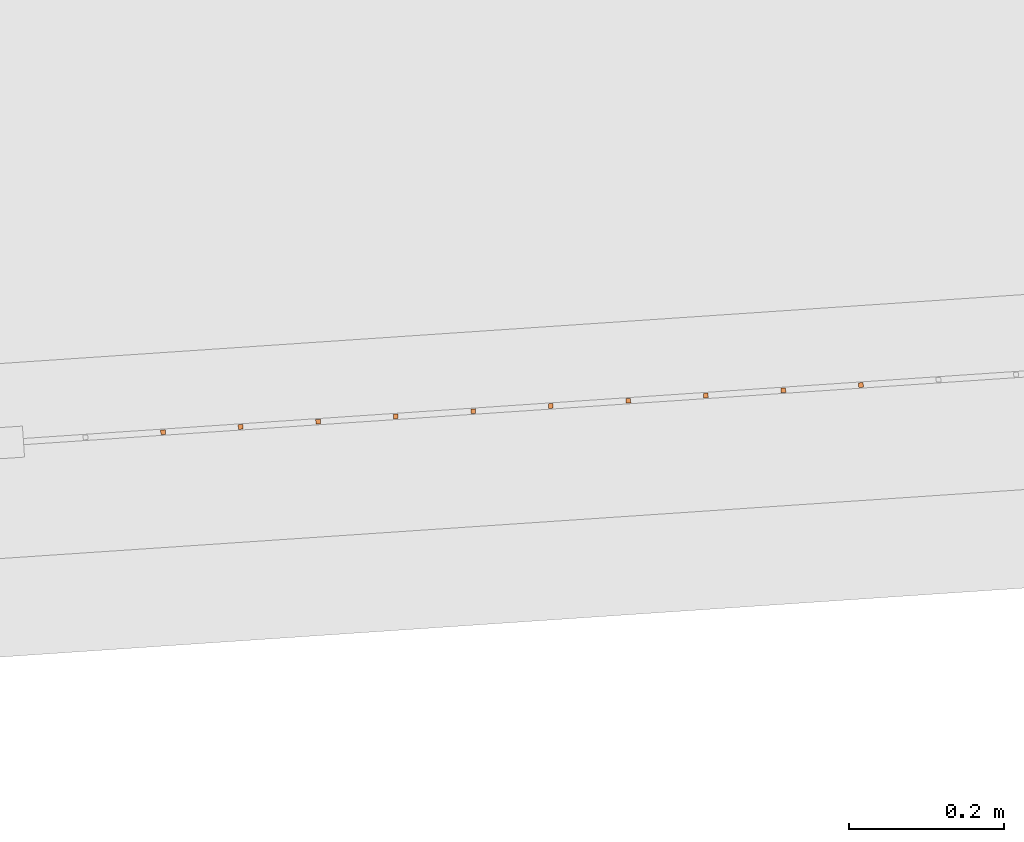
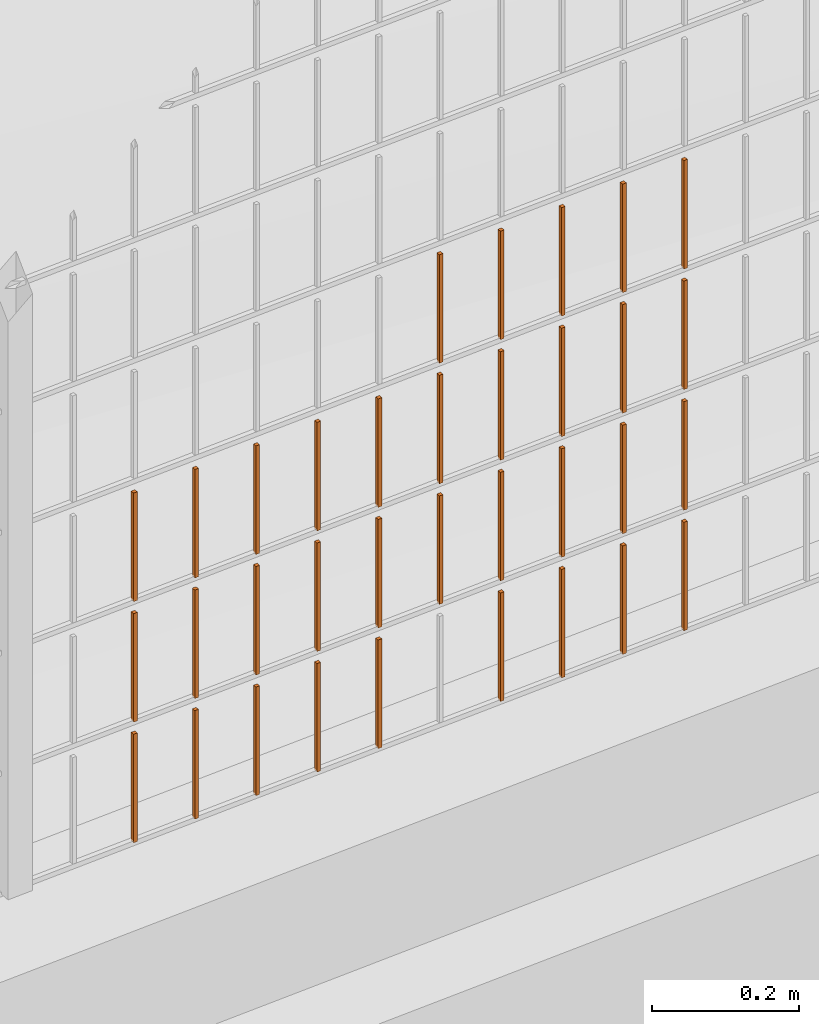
# One storey, part 395 of 1809: 34 proxies, 1 element without a shape of its own.
"""IFC2X3 building model written with IfcOpenShell, lengths in millimetres."""

from ifc_helpers import new_model, entity, si_unit, converted_unit, derived_unit, money_unit, direction, frame, origin_with_axes, place, context, subcontext, project, spatial, faceted_brep, source, transform, mapped, material, type_object, element, aggregate, save


model = new_model("IFC2X3")

# Units and contexts
model_context = context("Model", 3, precision=0.01, world=origin_with_axes(), true_north=direction((0.0, 1.0)))
body_context = subcontext(model_context, "Body", "Model", "MODEL_VIEW")
ifc_project = project(units=[si_unit("LENGTHUNIT", "METRE", prefix="MILLI"), si_unit("AREAUNIT", "SQUARE_METRE"), si_unit("VOLUMEUNIT", "CUBIC_METRE"), converted_unit("PLANEANGLEUNIT", "DEGREE", entity("IfcPlaneAngleMeasure", 0.0174532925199), si_unit("PLANEANGLEUNIT", "RADIAN"), dimensions=[0, 0, 0, 0, 0, 0, 0]), si_unit("SOLIDANGLEUNIT", "STERADIAN"), money_unit("EUR"), converted_unit("TIMEUNIT", "Year", entity("IfcTimeMeasure", 31556926.0), si_unit("TIMEUNIT", "SECOND"), dimensions=[0, 0, 1, 0, 0, 0, 0]), si_unit("MASSUNIT", "GRAM", prefix="KILO"), si_unit("THERMODYNAMICTEMPERATUREUNIT", "DEGREE_CELSIUS"), si_unit("LUMINOUSINTENSITYUNIT", "LUMEN"), si_unit("ENERGYUNIT", "JOULE", prefix="MEGA"), derived_unit("THERMALCONDUCTANCEUNIT", [(si_unit("POWERUNIT", "WATT"), 1), (si_unit("LENGTHUNIT", "METRE"), -1), (si_unit("THERMODYNAMICTEMPERATUREUNIT", "KELVIN"), -1)]), derived_unit("SPECIFICHEATCAPACITYUNIT", [(si_unit("ENERGYUNIT", "JOULE"), 1), (si_unit("MASSUNIT", "GRAM", prefix="KILO"), -1), (si_unit("THERMODYNAMICTEMPERATUREUNIT", "KELVIN"), -1)]), derived_unit("MASSDENSITYUNIT", [(si_unit("MASSUNIT", "GRAM", prefix="KILO"), 1), (si_unit("VOLUMEUNIT", "CUBIC_METRE"), -1)])], contexts=[model_context])

# Site, building, storey
site_placement = place(None, origin_with_axes())
site = spatial("IfcSite", under=ifc_project, at=site_placement, Name="Politse- ja Piirivalveameti ning Päästeameti ühishoone", CompositionType="ELEMENT")
building_placement = place(site_placement, origin_with_axes())
building = spatial("IfcBuilding", under=site, at=building_placement, Name="Politse- ja Piirivalveameti ning Päästeameti ühishoone", CompositionType="ELEMENT")
storey_placement = place(building_placement, origin_with_axes())
storey = spatial("IfcBuildingStorey", under=building, at=storey_placement, Name="Esimene korrus", CompositionType="ELEMENT", Elevation=0.0)

# Proxies
building_element_proxy_type_1 = type_object("IfcBuildingElementProxyType", Name="Railing Type", PredefinedType="NOTDEFINED")
proxy_1_placement = place(storey_placement, frame((89252.001212, -29183.4766571, 203.661247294), z_axis=(0.0, 0.0, 1.0), x_axis=(1.0, 0.0, 0.0)))
proxy_1 = element("IfcBuildingElementProxy", 1, at=proxy_1_placement, inside=storey, type_object=building_element_proxy_type_1, Name="PIIRDEAED")
ifc_material = material(Name="ET-03_Raud")
building_element_proxy_type_2 = type_object("IfcBuildingElementProxyType", Name="IfcBuildingElementProxy", PredefinedType="NOTDEFINED")
shared_shape_1 = source(origin_with_axes(), body_context, "Body", "Brep", [
    faceted_brep([(3.0, 3.0, -0.000752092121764), (-3.0, 3.0, -0.000752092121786), (-3.0, 3.0, 179.99926046), (3.0, 3.0, 179.99926046), (3.0, -3.0, 0.000752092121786), (-3.0, -3.0, 0.000752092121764), (-3.0, -3.0, 180.000764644), (3.0, -3.0, 180.000764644)], [[[0, 1, 2, 3]], [[0, 4, 5, 1]], [[1, 5, 6, 2]], [[3, 2, 6, 7]], [[4, 0, 3, 7]], [[5, 4, 7, 6]]]),
])
proxy_2_placement = place(proxy_1_placement, frame((-11400.7097398, -18067.8496798, 24.3697448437), z_axis=(0.0, 0.0, 1.0), x_axis=(1.0, 0.0, 0.0)))
proxy_2 = element("IfcBuildingElementProxy", 2, at=proxy_2_placement, type_object=building_element_proxy_type_2, material=ifc_material, Name="BALUSTER - 001", context=body_context, shape_type="MappedRepresentation", body=[
    mapped(shared_shape_1, transform((0.0, 0.0, 0.0), x_axis=(-0.0673926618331, 0.997726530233, 0.0), y_axis=(-0.997726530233, -0.0673926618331, 0.0), z_axis=(0.0, 0.0, 1.0))),
])
shared_shape_2 = source(origin_with_axes(), body_context, "Body", "Brep", [
    faceted_brep([(3.0, 3.0, -0.000752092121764), (-3.0, 3.0, -0.000752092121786), (-3.0, 3.0, 179.99926046), (3.0, 3.0, 179.99926046), (3.0, -3.0, 0.000752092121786), (-3.0, -3.0, 0.000752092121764), (-3.0, -3.0, 180.000764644), (3.0, -3.0, 180.000764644)], [[[0, 1, 2, 3]], [[0, 4, 5, 1]], [[1, 5, 6, 2]], [[3, 2, 6, 7]], [[4, 0, 3, 7]], [[5, 4, 7, 6]]]),
])
proxy_3_placement = place(proxy_1_placement, frame((-11300.9370868, -18061.1104136, 24.3948145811), z_axis=(0.0, 0.0, 1.0), x_axis=(1.0, 0.0, 0.0)))
proxy_3 = element("IfcBuildingElementProxy", 3, at=proxy_3_placement, type_object=building_element_proxy_type_2, material=ifc_material, Name="BALUSTER - 001", context=body_context, shape_type="MappedRepresentation", body=[
    mapped(shared_shape_2, transform((0.0, 0.0, 0.0), x_axis=(-0.0673926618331, 0.997726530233, 0.0), y_axis=(-0.997726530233, -0.0673926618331, 0.0), z_axis=(0.0, 0.0, 1.0))),
])
shared_shape_3 = source(origin_with_axes(), body_context, "Body", "Brep", [
    faceted_brep([(3.0, 3.0, -0.000752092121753), (-3.0, 3.0, -0.000752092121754), (-3.0, 3.0, 179.99926046), (3.0, 3.0, 179.99926046), (3.0, -3.0, 0.000752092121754), (-3.0, -3.0, 0.000752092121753), (-3.0, -3.0, 180.000764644), (3.0, -3.0, 180.000764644)], [[[0, 1, 2, 3]], [[0, 4, 5, 1]], [[1, 5, 6, 2]], [[3, 2, 6, 7]], [[4, 0, 3, 7]], [[5, 4, 7, 6]]]),
])
proxy_4_placement = place(proxy_1_placement, frame((-11500.4823929, -18074.588946, 224.344675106), z_axis=(0.0, 0.0, 1.0), x_axis=(1.0, 0.0, 0.0)))
proxy_4 = element("IfcBuildingElementProxy", 4, at=proxy_4_placement, type_object=building_element_proxy_type_2, material=ifc_material, Name="BALUSTER - 001", context=body_context, shape_type="MappedRepresentation", body=[
    mapped(shared_shape_3, transform((0.0, 0.0, 0.0), x_axis=(-0.0673926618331, 0.997726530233, 0.0), y_axis=(-0.997726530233, -0.0673926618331, 0.0), z_axis=(0.0, 0.0, 1.0))),
])
proxy_5_placement = place(proxy_1_placement, frame((-11500.4823929, -18074.588946, 424.344675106), z_axis=(0.0, 0.0, 1.0), x_axis=(1.0, 0.0, 0.0)))
proxy_5 = element("IfcBuildingElementProxy", 5, at=proxy_5_placement, type_object=building_element_proxy_type_2, material=ifc_material, Name="BALUSTER - 001", context=body_context, shape_type="MappedRepresentation", body=[
    mapped(shared_shape_3, transform((0.0, 0.0, 0.0), x_axis=(-0.0673926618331, 0.997726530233, 0.0), y_axis=(-0.997726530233, -0.0673926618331, 0.0), z_axis=(0.0, 0.0, 1.0))),
])
shared_shape_4 = source(origin_with_axes(), body_context, "Body", "Brep", [
    faceted_brep([(3.0, 3.0, -0.000752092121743), (-3.0, 3.0, -0.000752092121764), (-3.0, 3.0, 179.99926046), (3.0, 3.0, 179.99926046), (3.0, -3.0, 0.000752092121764), (-3.0, -3.0, 0.000752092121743), (-3.0, -3.0, 180.000764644), (3.0, -3.0, 180.000764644)], [[[0, 1, 2, 3]], [[0, 4, 5, 1]], [[1, 5, 6, 2]], [[3, 2, 6, 7]], [[4, 0, 3, 7]], [[5, 4, 7, 6]]]),
])
proxy_6_placement = place(proxy_1_placement, frame((-11799.8003519, -18094.8067445, 224.269465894), z_axis=(0.0, 0.0, 1.0), x_axis=(1.0, 0.0, 0.0)))
proxy_6 = element("IfcBuildingElementProxy", 6, at=proxy_6_placement, type_object=building_element_proxy_type_2, material=ifc_material, Name="BALUSTER - 001", context=body_context, shape_type="MappedRepresentation", body=[
    mapped(shared_shape_4, transform((0.0, 0.0, 0.0), x_axis=(-0.0673926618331, 0.997726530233, 0.0), y_axis=(-0.997726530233, -0.0673926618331, 0.0), z_axis=(0.0, 0.0, 1.0))),
])
shared_shape_5 = source(origin_with_axes(), body_context, "Body", "Brep", [
    faceted_brep([(3.0, 3.0, -0.000752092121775), (-3.0, 3.0, -0.000752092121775), (-3.0, 3.0, 179.99926046), (3.0, 3.0, 179.99926046), (3.0, -3.0, 0.000752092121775), (-3.0, -3.0, 0.000752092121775), (-3.0, -3.0, 180.000764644), (3.0, -3.0, 180.000764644)], [[[0, 1, 2, 3]], [[0, 4, 5, 1]], [[1, 5, 6, 2]], [[3, 2, 6, 7]], [[4, 0, 3, 7]], [[5, 4, 7, 6]]]),
])
proxy_7_placement = place(proxy_1_placement, frame((-11700.0276989, -18088.0674784, 224.294535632), z_axis=(0.0, 0.0, 1.0), x_axis=(1.0, 0.0, 0.0)))
proxy_7 = element("IfcBuildingElementProxy", 7, at=proxy_7_placement, type_object=building_element_proxy_type_2, material=ifc_material, Name="BALUSTER - 001", context=body_context, shape_type="MappedRepresentation", body=[
    mapped(shared_shape_5, transform((0.0, 0.0, 0.0), x_axis=(-0.0673926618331, 0.997726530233, 0.0), y_axis=(-0.997726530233, -0.0673926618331, 0.0), z_axis=(0.0, 0.0, 1.0))),
])
proxy_8_placement = place(proxy_1_placement, frame((-11700.0276989, -18088.0674784, 424.294535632), z_axis=(0.0, 0.0, 1.0), x_axis=(1.0, 0.0, 0.0)))
proxy_8 = element("IfcBuildingElementProxy", 8, at=proxy_8_placement, type_object=building_element_proxy_type_2, material=ifc_material, Name="BALUSTER - 001", context=body_context, shape_type="MappedRepresentation", body=[
    mapped(shared_shape_5, transform((0.0, 0.0, 0.0), x_axis=(-0.0673926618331, 0.997726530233, 0.0), y_axis=(-0.997726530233, -0.0673926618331, 0.0), z_axis=(0.0, 0.0, 1.0))),
])
shared_shape_6 = source(origin_with_axes(), body_context, "Body", "Brep", [
    faceted_brep([(3.0, 3.0, -0.000752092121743), (-3.0, 3.0, -0.000752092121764), (-3.0, 3.0, 179.99926046), (3.0, 3.0, 179.99926046), (3.0, -3.0, 0.000752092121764), (-3.0, -3.0, 0.000752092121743), (-3.0, -3.0, 180.000764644), (3.0, -3.0, 180.000764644)], [[[0, 1, 2, 3]], [[0, 4, 5, 1]], [[1, 5, 6, 2]], [[3, 2, 6, 7]], [[4, 0, 3, 7]], [[5, 4, 7, 6]]]),
])
proxy_9_placement = place(proxy_1_placement, frame((-11799.8003519, -18094.8067445, 424.269465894), z_axis=(0.0, 0.0, 1.0), x_axis=(1.0, 0.0, 0.0)))
proxy_9 = element("IfcBuildingElementProxy", 9, at=proxy_9_placement, type_object=building_element_proxy_type_2, material=ifc_material, Name="BALUSTER - 001", context=body_context, shape_type="MappedRepresentation", body=[
    mapped(shared_shape_6, transform((0.0, 0.0, 0.0), x_axis=(-0.0673926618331, 0.997726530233, 0.0), y_axis=(-0.997726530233, -0.0673926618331, 0.0), z_axis=(0.0, 0.0, 1.0))),
])
shared_shape_7 = source(origin_with_axes(), body_context, "Body", "Brep", [
    faceted_brep([(3.0, 3.0, -0.000752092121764), (-3.0, 3.0, -0.000752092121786), (-3.0, 3.0, 179.99926046), (3.0, 3.0, 179.99926046), (3.0, -3.0, 0.000752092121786), (-3.0, -3.0, 0.000752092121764), (-3.0, -3.0, 180.000764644), (3.0, -3.0, 180.000764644)], [[[0, 1, 2, 3]], [[0, 4, 5, 1]], [[1, 5, 6, 2]], [[3, 2, 6, 7]], [[4, 0, 3, 7]], [[5, 4, 7, 6]]]),
])
proxy_10_placement = place(proxy_1_placement, frame((-11400.7097398, -18067.8496798, 224.369744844), z_axis=(0.0, 0.0, 1.0), x_axis=(1.0, 0.0, 0.0)))
proxy_10 = element("IfcBuildingElementProxy", 10, at=proxy_10_placement, type_object=building_element_proxy_type_2, material=ifc_material, Name="BALUSTER - 001", context=body_context, shape_type="MappedRepresentation", body=[
    mapped(shared_shape_7, transform((0.0, 0.0, 0.0), x_axis=(-0.0673926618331, 0.997726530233, 0.0), y_axis=(-0.997726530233, -0.0673926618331, 0.0), z_axis=(0.0, 0.0, 1.0))),
])
shared_shape_8 = source(origin_with_axes(), body_context, "Body", "Brep", [
    faceted_brep([(3.0, 3.0, -0.000752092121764), (-3.0, 3.0, -0.000752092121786), (-3.0, 3.0, 179.99926046), (3.0, 3.0, 179.99926046), (3.0, -3.0, 0.000752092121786), (-3.0, -3.0, 0.000752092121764), (-3.0, -3.0, 180.000764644), (3.0, -3.0, 180.000764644)], [[[0, 1, 2, 3]], [[0, 4, 5, 1]], [[1, 5, 6, 2]], [[3, 2, 6, 7]], [[4, 0, 3, 7]], [[5, 4, 7, 6]]]),
])
proxy_11_placement = place(proxy_1_placement, frame((-11300.9370868, -18061.1104136, 424.394814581), z_axis=(0.0, 0.0, 1.0), x_axis=(1.0, 0.0, 0.0)))
proxy_11 = element("IfcBuildingElementProxy", 11, at=proxy_11_placement, type_object=building_element_proxy_type_2, material=ifc_material, Name="BALUSTER - 001", context=body_context, shape_type="MappedRepresentation", body=[
    mapped(shared_shape_8, transform((0.0, 0.0, 0.0), x_axis=(-0.0673926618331, 0.997726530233, 0.0), y_axis=(-0.997726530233, -0.0673926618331, 0.0), z_axis=(0.0, 0.0, 1.0))),
])
proxy_12_placement = place(proxy_1_placement, frame((-11400.7097398, -18067.8496798, 424.369744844), z_axis=(0.0, 0.0, 1.0), x_axis=(1.0, 0.0, 0.0)))
proxy_12 = element("IfcBuildingElementProxy", 12, at=proxy_12_placement, type_object=building_element_proxy_type_2, material=ifc_material, Name="BALUSTER - 001", context=body_context, shape_type="MappedRepresentation", body=[
    mapped(shared_shape_8, transform((0.0, 0.0, 0.0), x_axis=(-0.0673926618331, 0.997726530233, 0.0), y_axis=(-0.997726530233, -0.0673926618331, 0.0), z_axis=(0.0, 0.0, 1.0))),
])
proxy_13_placement = place(proxy_1_placement, frame((-11999.345658, -18108.2852769, 424.219326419), z_axis=(0.0, 0.0, 1.0), x_axis=(1.0, 0.0, 0.0)))
proxy_13 = element("IfcBuildingElementProxy", 13, at=proxy_13_placement, type_object=building_element_proxy_type_2, material=ifc_material, Name="BALUSTER - 001", context=body_context, shape_type="MappedRepresentation", body=[
    mapped(shared_shape_8, transform((0.0, 0.0, 0.0), x_axis=(-0.0673926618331, 0.997726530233, 0.0), y_axis=(-0.997726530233, -0.0673926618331, 0.0), z_axis=(0.0, 0.0, 1.0))),
])
shared_shape_9 = source(origin_with_axes(), body_context, "Body", "Brep", [
    faceted_brep([(3.0, 3.0, -0.000752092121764), (-3.0, 3.0, -0.000752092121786), (-3.0, 3.0, 179.99926046), (3.0, 3.0, 179.99926046), (3.0, -3.0, 0.000752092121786), (-3.0, -3.0, 0.000752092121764), (-3.0, -3.0, 180.000764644), (3.0, -3.0, 180.000764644)], [[[0, 1, 2, 3]], [[0, 4, 5, 1]], [[1, 5, 6, 2]], [[3, 2, 6, 7]], [[4, 0, 3, 7]], [[5, 4, 7, 6]]]),
])
proxy_14_placement = place(proxy_1_placement, frame((-11201.1644338, -18054.3711474, 424.419884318), z_axis=(0.0, 0.0, 1.0), x_axis=(1.0, 0.0, 0.0)))
proxy_14 = element("IfcBuildingElementProxy", 14, at=proxy_14_placement, type_object=building_element_proxy_type_2, material=ifc_material, Name="BALUSTER - 001", context=body_context, shape_type="MappedRepresentation", body=[
    mapped(shared_shape_9, transform((0.0, 0.0, 0.0), x_axis=(-0.0673926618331, 0.997726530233, 0.0), y_axis=(-0.997726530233, -0.0673926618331, 0.0), z_axis=(0.0, 0.0, 1.0))),
])
shared_shape_10 = source(origin_with_axes(), body_context, "Body", "Brep", [
    faceted_brep([(3.0, 3.0, -0.000752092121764), (-3.0, 3.0, -0.000752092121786), (-3.0, 3.0, 179.99926046), (3.0, 3.0, 179.99926046), (3.0, -3.0, 0.000752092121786), (-3.0, -3.0, 0.000752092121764), (-3.0, -3.0, 180.000764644), (3.0, -3.0, 180.000764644)], [[[0, 1, 2, 3]], [[0, 4, 5, 1]], [[1, 5, 6, 2]], [[3, 2, 6, 7]], [[4, 0, 3, 7]], [[5, 4, 7, 6]]]),
])
proxy_15_placement = place(proxy_1_placement, frame((-11300.9370868, -18061.1104136, 624.394814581), z_axis=(0.0, 0.0, 1.0), x_axis=(1.0, 0.0, 0.0)))
proxy_15 = element("IfcBuildingElementProxy", 15, at=proxy_15_placement, type_object=building_element_proxy_type_2, material=ifc_material, Name="BALUSTER - 001", context=body_context, shape_type="MappedRepresentation", body=[
    mapped(shared_shape_10, transform((0.0, 0.0, 0.0), x_axis=(-0.0673926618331, 0.997726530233, 0.0), y_axis=(-0.997726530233, -0.0673926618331, 0.0), z_axis=(0.0, 0.0, 1.0))),
])
shared_shape_11 = source(origin_with_axes(), body_context, "Body", "Brep", [
    faceted_brep([(3.0, 3.0, -0.000752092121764), (-3.0, 3.0, -0.000752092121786), (-3.0, 3.0, 179.99926046), (3.0, 3.0, 179.99926046), (3.0, -3.0, 0.000752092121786), (-3.0, -3.0, 0.000752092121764), (-3.0, -3.0, 180.000764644), (3.0, -3.0, 180.000764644)], [[[0, 1, 2, 3]], [[0, 4, 5, 1]], [[1, 5, 6, 2]], [[3, 2, 6, 7]], [[4, 0, 3, 7]], [[5, 4, 7, 6]]]),
])
proxy_16_placement = place(proxy_1_placement, frame((-11201.1644338, -18054.3711474, 624.419884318), z_axis=(0.0, 0.0, 1.0), x_axis=(1.0, 0.0, 0.0)))
proxy_16 = element("IfcBuildingElementProxy", 16, at=proxy_16_placement, type_object=building_element_proxy_type_2, material=ifc_material, Name="BALUSTER - 001", context=body_context, shape_type="MappedRepresentation", body=[
    mapped(shared_shape_11, transform((0.0, 0.0, 0.0), x_axis=(-0.0673926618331, 0.997726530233, 0.0), y_axis=(-0.997726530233, -0.0673926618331, 0.0), z_axis=(0.0, 0.0, 1.0))),
])
shared_shape_12 = source(origin_with_axes(), body_context, "Body", "Brep", [
    faceted_brep([(3.0, 3.0, -0.000752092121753), (-3.0, 3.0, -0.000752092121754), (-3.0, 3.0, 179.99926046), (3.0, 3.0, 179.99926046), (3.0, -3.0, 0.000752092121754), (-3.0, -3.0, 0.000752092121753), (-3.0, -3.0, 180.000764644), (3.0, -3.0, 180.000764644)], [[[0, 1, 2, 3]], [[0, 4, 5, 1]], [[1, 5, 6, 2]], [[3, 2, 6, 7]], [[4, 0, 3, 7]], [[5, 4, 7, 6]]]),
])
proxy_17_placement = place(proxy_1_placement, frame((-11500.4823929, -18074.588946, 624.344675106), z_axis=(0.0, 0.0, 1.0), x_axis=(1.0, 0.0, 0.0)))
proxy_17 = element("IfcBuildingElementProxy", 17, at=proxy_17_placement, type_object=building_element_proxy_type_2, material=ifc_material, Name="BALUSTER - 001", context=body_context, shape_type="MappedRepresentation", body=[
    mapped(shared_shape_12, transform((0.0, 0.0, 0.0), x_axis=(-0.0673926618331, 0.997726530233, 0.0), y_axis=(-0.997726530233, -0.0673926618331, 0.0), z_axis=(0.0, 0.0, 1.0))),
])
shared_shape_13 = source(origin_with_axes(), body_context, "Body", "Brep", [
    faceted_brep([(3.0, 3.0, -0.000752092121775), (-3.0, 3.0, -0.000752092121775), (-3.0, 3.0, 179.99926046), (3.0, 3.0, 179.99926046), (3.0, -3.0, 0.000752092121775), (-3.0, -3.0, 0.000752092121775), (-3.0, -3.0, 180.000764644), (3.0, -3.0, 180.000764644)], [[[0, 1, 2, 3]], [[0, 4, 5, 1]], [[1, 5, 6, 2]], [[3, 2, 6, 7]], [[4, 0, 3, 7]], [[5, 4, 7, 6]]]),
])
proxy_18_placement = place(proxy_1_placement, frame((-11700.0276989, -18088.0674784, 24.2945356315), z_axis=(0.0, 0.0, 1.0), x_axis=(1.0, 0.0, 0.0)))
proxy_18 = element("IfcBuildingElementProxy", 18, at=proxy_18_placement, type_object=building_element_proxy_type_2, material=ifc_material, Name="BALUSTER - 001", context=body_context, shape_type="MappedRepresentation", body=[
    mapped(shared_shape_13, transform((0.0, 0.0, 0.0), x_axis=(-0.0673926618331, 0.997726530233, 0.0), y_axis=(-0.997726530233, -0.0673926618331, 0.0), z_axis=(0.0, 0.0, 1.0))),
])
shared_shape_14 = source(origin_with_axes(), body_context, "Body", "Brep", [
    faceted_brep([(3.0, 3.0, -0.000752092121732), (-3.0, 3.0, -0.000752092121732), (-3.0, 3.0, 179.99926046), (3.0, 3.0, 179.99926046), (3.0, -3.0, 0.000752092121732), (-3.0, -3.0, 0.000752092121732), (-3.0, -3.0, 180.000764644), (3.0, -3.0, 180.000764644)], [[[0, 1, 2, 3]], [[0, 4, 5, 1]], [[1, 5, 6, 2]], [[3, 2, 6, 7]], [[4, 0, 3, 7]], [[5, 4, 7, 6]]]),
])
proxy_19_placement = place(proxy_1_placement, frame((-11600.2550459, -18081.3282122, 224.319605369), z_axis=(0.0, 0.0, 1.0), x_axis=(1.0, 0.0, 0.0)))
proxy_19 = element("IfcBuildingElementProxy", 19, at=proxy_19_placement, type_object=building_element_proxy_type_2, material=ifc_material, Name="BALUSTER - 001", context=body_context, shape_type="MappedRepresentation", body=[
    mapped(shared_shape_14, transform((0.0, 0.0, 0.0), x_axis=(-0.0673926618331, 0.997726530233, 0.0), y_axis=(-0.997726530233, -0.0673926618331, 0.0), z_axis=(0.0, 0.0, 1.0))),
])
proxy_20_placement = place(proxy_1_placement, frame((-11600.2550459, -18081.3282122, 624.319605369), z_axis=(0.0, 0.0, 1.0), x_axis=(1.0, 0.0, 0.0)))
proxy_20 = element("IfcBuildingElementProxy", 20, at=proxy_20_placement, type_object=building_element_proxy_type_2, material=ifc_material, Name="BALUSTER - 001", context=body_context, shape_type="MappedRepresentation", body=[
    mapped(shared_shape_14, transform((0.0, 0.0, 0.0), x_axis=(-0.0673926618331, 0.997726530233, 0.0), y_axis=(-0.997726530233, -0.0673926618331, 0.0), z_axis=(0.0, 0.0, 1.0))),
])
shared_shape_15 = source(origin_with_axes(), body_context, "Body", "Brep", [
    faceted_brep([(3.0, 3.0, -0.000752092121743), (-3.0, 3.0, -0.000752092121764), (-3.0, 3.0, 179.99926046), (3.0, 3.0, 179.99926046), (3.0, -3.0, 0.000752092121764), (-3.0, -3.0, 0.000752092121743), (-3.0, -3.0, 180.000764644), (3.0, -3.0, 180.000764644)], [[[0, 1, 2, 3]], [[0, 4, 5, 1]], [[1, 5, 6, 2]], [[3, 2, 6, 7]], [[4, 0, 3, 7]], [[5, 4, 7, 6]]]),
])
proxy_21_placement = place(proxy_1_placement, frame((-11899.573005, -18101.5460107, 424.244396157), z_axis=(0.0, 0.0, 1.0), x_axis=(1.0, 0.0, 0.0)))
proxy_21 = element("IfcBuildingElementProxy", 21, at=proxy_21_placement, type_object=building_element_proxy_type_2, material=ifc_material, Name="BALUSTER - 001", context=body_context, shape_type="MappedRepresentation", body=[
    mapped(shared_shape_15, transform((0.0, 0.0, 0.0), x_axis=(-0.0673926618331, 0.997726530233, 0.0), y_axis=(-0.997726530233, -0.0673926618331, 0.0), z_axis=(0.0, 0.0, 1.0))),
])
shared_shape_16 = source(origin_with_axes(), body_context, "Body", "Brep", [
    faceted_brep([(3.0, 3.0, -0.000752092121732), (-3.0, 3.0, -0.000752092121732), (-3.0, 3.0, 179.99926046), (3.0, 3.0, 179.99926046), (3.0, -3.0, 0.000752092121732), (-3.0, -3.0, 0.000752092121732), (-3.0, -3.0, 180.000764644), (3.0, -3.0, 180.000764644)], [[[0, 1, 2, 3]], [[0, 4, 5, 1]], [[1, 5, 6, 2]], [[3, 2, 6, 7]], [[4, 0, 3, 7]], [[5, 4, 7, 6]]]),
])
proxy_22_placement = place(proxy_1_placement, frame((-11600.2550459, -18081.3282122, 424.319605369), z_axis=(0.0, 0.0, 1.0), x_axis=(1.0, 0.0, 0.0)))
proxy_22 = element("IfcBuildingElementProxy", 22, at=proxy_22_placement, type_object=building_element_proxy_type_2, material=ifc_material, Name="BALUSTER - 001", context=body_context, shape_type="MappedRepresentation", body=[
    mapped(shared_shape_16, transform((0.0, 0.0, 0.0), x_axis=(-0.0673926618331, 0.997726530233, 0.0), y_axis=(-0.997726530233, -0.0673926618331, 0.0), z_axis=(0.0, 0.0, 1.0))),
])
shared_shape_17 = source(origin_with_axes(), body_context, "Body", "Brep", [
    faceted_brep([(3.0, 3.0, -0.000752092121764), (-3.0, 3.0, -0.000752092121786), (-3.0, 3.0, 179.99926046), (3.0, 3.0, 179.99926046), (3.0, -3.0, 0.000752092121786), (-3.0, -3.0, 0.000752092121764), (-3.0, -3.0, 180.000764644), (3.0, -3.0, 180.000764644)], [[[0, 1, 2, 3]], [[0, 4, 5, 1]], [[1, 5, 6, 2]], [[3, 2, 6, 7]], [[4, 0, 3, 7]], [[5, 4, 7, 6]]]),
])
proxy_23_placement = place(proxy_1_placement, frame((-11400.7097398, -18067.8496798, 624.369744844), z_axis=(0.0, 0.0, 1.0), x_axis=(1.0, 0.0, 0.0)))
proxy_23 = element("IfcBuildingElementProxy", 23, at=proxy_23_placement, type_object=building_element_proxy_type_2, material=ifc_material, Name="BALUSTER - 001", context=body_context, shape_type="MappedRepresentation", body=[
    mapped(shared_shape_17, transform((0.0, 0.0, 0.0), x_axis=(-0.0673926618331, 0.997726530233, 0.0), y_axis=(-0.997726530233, -0.0673926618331, 0.0), z_axis=(0.0, 0.0, 1.0))),
])
shared_shape_18 = source(origin_with_axes(), body_context, "Body", "Brep", [
    faceted_brep([(3.0, 3.0, -0.000752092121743), (-3.0, 3.0, -0.000752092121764), (-3.0, 3.0, 179.99926046), (3.0, 3.0, 179.99926046), (3.0, -3.0, 0.000752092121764), (-3.0, -3.0, 0.000752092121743), (-3.0, -3.0, 180.000764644), (3.0, -3.0, 180.000764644)], [[[0, 1, 2, 3]], [[0, 4, 5, 1]], [[1, 5, 6, 2]], [[3, 2, 6, 7]], [[4, 0, 3, 7]], [[5, 4, 7, 6]]]),
])
proxy_24_placement = place(proxy_1_placement, frame((-11899.573005, -18101.5460107, 224.244396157), z_axis=(0.0, 0.0, 1.0), x_axis=(1.0, 0.0, 0.0)))
proxy_24 = element("IfcBuildingElementProxy", 24, at=proxy_24_placement, type_object=building_element_proxy_type_2, material=ifc_material, Name="BALUSTER - 001", context=body_context, shape_type="MappedRepresentation", body=[
    mapped(shared_shape_18, transform((0.0, 0.0, 0.0), x_axis=(-0.0673926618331, 0.997726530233, 0.0), y_axis=(-0.997726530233, -0.0673926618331, 0.0), z_axis=(0.0, 0.0, 1.0))),
])
shared_shape_19 = source(origin_with_axes(), body_context, "Body", "Brep", [
    faceted_brep([(3.0, 3.0, -0.000752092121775), (-3.0, 3.0, -0.000752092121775), (-3.0, 3.0, 179.99926046), (3.0, 3.0, 179.99926046), (3.0, -3.0, 0.000752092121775), (-3.0, -3.0, 0.000752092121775), (-3.0, -3.0, 180.000764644), (3.0, -3.0, 180.000764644)], [[[0, 1, 2, 3]], [[0, 4, 5, 1]], [[1, 5, 6, 2]], [[3, 2, 6, 7]], [[4, 0, 3, 7]], [[5, 4, 7, 6]]]),
])
proxy_25_placement = place(proxy_1_placement, frame((-12099.118311, -18115.0245431, 24.194256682), z_axis=(0.0, 0.0, 1.0), x_axis=(1.0, 0.0, 0.0)))
proxy_25 = element("IfcBuildingElementProxy", 25, at=proxy_25_placement, type_object=building_element_proxy_type_2, material=ifc_material, Name="BALUSTER - 001", context=body_context, shape_type="MappedRepresentation", body=[
    mapped(shared_shape_19, transform((0.0, 0.0, 0.0), x_axis=(-0.0673926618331, 0.997726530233, 0.0), y_axis=(-0.997726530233, -0.0673926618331, 0.0), z_axis=(0.0, 0.0, 1.0))),
])
shared_shape_20 = source(origin_with_axes(), body_context, "Body", "Brep", [
    faceted_brep([(3.0, 3.0, -0.000752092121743), (-3.0, 3.0, -0.000752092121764), (-3.0, 3.0, 179.99926046), (3.0, 3.0, 179.99926046), (3.0, -3.0, 0.000752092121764), (-3.0, -3.0, 0.000752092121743), (-3.0, -3.0, 180.000764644), (3.0, -3.0, 180.000764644)], [[[0, 1, 2, 3]], [[0, 4, 5, 1]], [[1, 5, 6, 2]], [[3, 2, 6, 7]], [[4, 0, 3, 7]], [[5, 4, 7, 6]]]),
])
proxy_26_placement = place(proxy_1_placement, frame((-11799.8003519, -18094.8067445, 24.2694658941), z_axis=(0.0, 0.0, 1.0), x_axis=(1.0, 0.0, 0.0)))
proxy_26 = element("IfcBuildingElementProxy", 26, at=proxy_26_placement, type_object=building_element_proxy_type_2, material=ifc_material, Name="BALUSTER - 001", context=body_context, shape_type="MappedRepresentation", body=[
    mapped(shared_shape_20, transform((0.0, 0.0, 0.0), x_axis=(-0.0673926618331, 0.997726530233, 0.0), y_axis=(-0.997726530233, -0.0673926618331, 0.0), z_axis=(0.0, 0.0, 1.0))),
])
proxy_27_placement = place(proxy_1_placement, frame((-11899.573005, -18101.5460107, 24.2443961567), z_axis=(0.0, 0.0, 1.0), x_axis=(1.0, 0.0, 0.0)))
proxy_27 = element("IfcBuildingElementProxy", 27, at=proxy_27_placement, type_object=building_element_proxy_type_2, material=ifc_material, Name="BALUSTER - 001", context=body_context, shape_type="MappedRepresentation", body=[
    mapped(shared_shape_20, transform((0.0, 0.0, 0.0), x_axis=(-0.0673926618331, 0.997726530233, 0.0), y_axis=(-0.997726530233, -0.0673926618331, 0.0), z_axis=(0.0, 0.0, 1.0))),
])
shared_shape_21 = source(origin_with_axes(), body_context, "Body", "Brep", [
    faceted_brep([(3.0, 3.0, -0.000752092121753), (-3.0, 3.0, -0.000752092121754), (-3.0, 3.0, 179.99926046), (3.0, 3.0, 179.99926046), (3.0, -3.0, 0.000752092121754), (-3.0, -3.0, 0.000752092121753), (-3.0, -3.0, 180.000764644), (3.0, -3.0, 180.000764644)], [[[0, 1, 2, 3]], [[0, 4, 5, 1]], [[1, 5, 6, 2]], [[3, 2, 6, 7]], [[4, 0, 3, 7]], [[5, 4, 7, 6]]]),
])
proxy_28_placement = place(proxy_1_placement, frame((-11500.4823929, -18074.588946, 24.3446751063), z_axis=(0.0, 0.0, 1.0), x_axis=(1.0, 0.0, 0.0)))
proxy_28 = element("IfcBuildingElementProxy", 28, at=proxy_28_placement, type_object=building_element_proxy_type_2, material=ifc_material, Name="BALUSTER - 001", context=body_context, shape_type="MappedRepresentation", body=[
    mapped(shared_shape_21, transform((0.0, 0.0, 0.0), x_axis=(-0.0673926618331, 0.997726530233, 0.0), y_axis=(-0.997726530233, -0.0673926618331, 0.0), z_axis=(0.0, 0.0, 1.0))),
])
shared_shape_22 = source(origin_with_axes(), body_context, "Body", "Brep", [
    faceted_brep([(3.0, 3.0, -0.000752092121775), (-3.0, 3.0, -0.000752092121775), (-3.0, 3.0, 179.99926046), (3.0, 3.0, 179.99926046), (3.0, -3.0, 0.000752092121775), (-3.0, -3.0, 0.000752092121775), (-3.0, -3.0, 180.000764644), (3.0, -3.0, 180.000764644)], [[[0, 1, 2, 3]], [[0, 4, 5, 1]], [[1, 5, 6, 2]], [[3, 2, 6, 7]], [[4, 0, 3, 7]], [[5, 4, 7, 6]]]),
])
proxy_29_placement = place(proxy_1_placement, frame((-12099.118311, -18115.0245431, 224.194256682), z_axis=(0.0, 0.0, 1.0), x_axis=(1.0, 0.0, 0.0)))
proxy_29 = element("IfcBuildingElementProxy", 29, at=proxy_29_placement, type_object=building_element_proxy_type_2, material=ifc_material, Name="BALUSTER - 001", context=body_context, shape_type="MappedRepresentation", body=[
    mapped(shared_shape_22, transform((0.0, 0.0, 0.0), x_axis=(-0.0673926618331, 0.997726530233, 0.0), y_axis=(-0.997726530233, -0.0673926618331, 0.0), z_axis=(0.0, 0.0, 1.0))),
])
shared_shape_23 = source(origin_with_axes(), body_context, "Body", "Brep", [
    faceted_brep([(3.0, 3.0, -0.000752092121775), (-3.0, 3.0, -0.000752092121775), (-3.0, 3.0, 179.99926046), (3.0, 3.0, 179.99926046), (3.0, -3.0, 0.000752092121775), (-3.0, -3.0, 0.000752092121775), (-3.0, -3.0, 180.000764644), (3.0, -3.0, 180.000764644)], [[[0, 1, 2, 3]], [[0, 4, 5, 1]], [[1, 5, 6, 2]], [[3, 2, 6, 7]], [[4, 0, 3, 7]], [[5, 4, 7, 6]]]),
])
proxy_30_placement = place(proxy_1_placement, frame((-12099.118311, -18115.0245431, 424.194256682), z_axis=(0.0, 0.0, 1.0), x_axis=(1.0, 0.0, 0.0)))
proxy_30 = element("IfcBuildingElementProxy", 30, at=proxy_30_placement, type_object=building_element_proxy_type_2, material=ifc_material, Name="BALUSTER - 001", context=body_context, shape_type="MappedRepresentation", body=[
    mapped(shared_shape_23, transform((0.0, 0.0, 0.0), x_axis=(-0.0673926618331, 0.997726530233, 0.0), y_axis=(-0.997726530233, -0.0673926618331, 0.0), z_axis=(0.0, 0.0, 1.0))),
])
shared_shape_24 = source(origin_with_axes(), body_context, "Body", "Brep", [
    faceted_brep([(3.0, 3.0, -0.000752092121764), (-3.0, 3.0, -0.000752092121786), (-3.0, 3.0, 179.99926046), (3.0, 3.0, 179.99926046), (3.0, -3.0, 0.000752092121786), (-3.0, -3.0, 0.000752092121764), (-3.0, -3.0, 180.000764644), (3.0, -3.0, 180.000764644)], [[[0, 1, 2, 3]], [[0, 4, 5, 1]], [[1, 5, 6, 2]], [[3, 2, 6, 7]], [[4, 0, 3, 7]], [[5, 4, 7, 6]]]),
])
proxy_31_placement = place(proxy_1_placement, frame((-11999.345658, -18108.2852769, 24.2193264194), z_axis=(0.0, 0.0, 1.0), x_axis=(1.0, 0.0, 0.0)))
proxy_31 = element("IfcBuildingElementProxy", 31, at=proxy_31_placement, type_object=building_element_proxy_type_2, material=ifc_material, Name="BALUSTER - 001", context=body_context, shape_type="MappedRepresentation", body=[
    mapped(shared_shape_24, transform((0.0, 0.0, 0.0), x_axis=(-0.0673926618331, 0.997726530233, 0.0), y_axis=(-0.997726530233, -0.0673926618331, 0.0), z_axis=(0.0, 0.0, 1.0))),
])
proxy_32_placement = place(proxy_1_placement, frame((-11300.9370868, -18061.1104136, 224.394814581), z_axis=(0.0, 0.0, 1.0), x_axis=(1.0, 0.0, 0.0)))
proxy_32 = element("IfcBuildingElementProxy", 32, at=proxy_32_placement, type_object=building_element_proxy_type_2, material=ifc_material, Name="BALUSTER - 001", context=body_context, shape_type="MappedRepresentation", body=[
    mapped(shared_shape_24, transform((0.0, 0.0, 0.0), x_axis=(-0.0673926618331, 0.997726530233, 0.0), y_axis=(-0.997726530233, -0.0673926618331, 0.0), z_axis=(0.0, 0.0, 1.0))),
])
proxy_33_placement = place(proxy_1_placement, frame((-11999.345658, -18108.2852769, 224.219326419), z_axis=(0.0, 0.0, 1.0), x_axis=(1.0, 0.0, 0.0)))
proxy_33 = element("IfcBuildingElementProxy", 33, at=proxy_33_placement, type_object=building_element_proxy_type_2, material=ifc_material, Name="BALUSTER - 001", context=body_context, shape_type="MappedRepresentation", body=[
    mapped(shared_shape_24, transform((0.0, 0.0, 0.0), x_axis=(-0.0673926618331, 0.997726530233, 0.0), y_axis=(-0.997726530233, -0.0673926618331, 0.0), z_axis=(0.0, 0.0, 1.0))),
])
shared_shape_25 = source(origin_with_axes(), body_context, "Body", "Brep", [
    faceted_brep([(3.0, 3.0, -0.000752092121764), (-3.0, 3.0, -0.000752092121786), (-3.0, 3.0, 179.99926046), (3.0, 3.0, 179.99926046), (3.0, -3.0, 0.000752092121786), (-3.0, -3.0, 0.000752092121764), (-3.0, -3.0, 180.000764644), (3.0, -3.0, 180.000764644)], [[[0, 1, 2, 3]], [[0, 4, 5, 1]], [[1, 5, 6, 2]], [[3, 2, 6, 7]], [[4, 0, 3, 7]], [[5, 4, 7, 6]]]),
])
proxy_34_placement = place(proxy_1_placement, frame((-11201.1644338, -18054.3711474, 24.4198843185), z_axis=(0.0, 0.0, 1.0), x_axis=(1.0, 0.0, 0.0)))
proxy_34 = element("IfcBuildingElementProxy", 34, at=proxy_34_placement, type_object=building_element_proxy_type_2, material=ifc_material, Name="BALUSTER - 001", context=body_context, shape_type="MappedRepresentation", body=[
    mapped(shared_shape_25, transform((0.0, 0.0, 0.0), x_axis=(-0.0673926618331, 0.997726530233, 0.0), y_axis=(-0.997726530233, -0.0673926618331, 0.0), z_axis=(0.0, 0.0, 1.0))),
])
shared_shape_26 = source(origin_with_axes(), body_context, "Body", "Brep", [
    faceted_brep([(3.0, 3.0, -0.000752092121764), (-3.0, 3.0, -0.000752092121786), (-3.0, 3.0, 179.99926046), (3.0, 3.0, 179.99926046), (3.0, -3.0, 0.000752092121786), (-3.0, -3.0, 0.000752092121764), (-3.0, -3.0, 180.000764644), (3.0, -3.0, 180.000764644)], [[[0, 1, 2, 3]], [[0, 4, 5, 1]], [[1, 5, 6, 2]], [[3, 2, 6, 7]], [[4, 0, 3, 7]], [[5, 4, 7, 6]]]),
])
proxy_35_placement = place(proxy_1_placement, frame((-11201.1644338, -18054.3711474, 224.419884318), z_axis=(0.0, 0.0, 1.0), x_axis=(1.0, 0.0, 0.0)))
proxy_35 = element("IfcBuildingElementProxy", 35, at=proxy_35_placement, type_object=building_element_proxy_type_2, material=ifc_material, Name="BALUSTER - 001", context=body_context, shape_type="MappedRepresentation", body=[
    mapped(shared_shape_26, transform((0.0, 0.0, 0.0), x_axis=(-0.0673926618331, 0.997726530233, 0.0), y_axis=(-0.997726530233, -0.0673926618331, 0.0), z_axis=(0.0, 0.0, 1.0))),
])
aggregate(proxy_1, [proxy_34, proxy_3, proxy_2, proxy_28, proxy_18, proxy_26, proxy_27, proxy_31, proxy_25, proxy_35, proxy_32, proxy_10, proxy_4, proxy_19, proxy_7, proxy_6, proxy_24, proxy_33, proxy_29, proxy_14, proxy_11, proxy_12, proxy_5, proxy_22, proxy_8, proxy_9, proxy_21, proxy_13, proxy_30, proxy_16, proxy_15, proxy_23, proxy_17, proxy_20])

save(model, "model.ifc")
